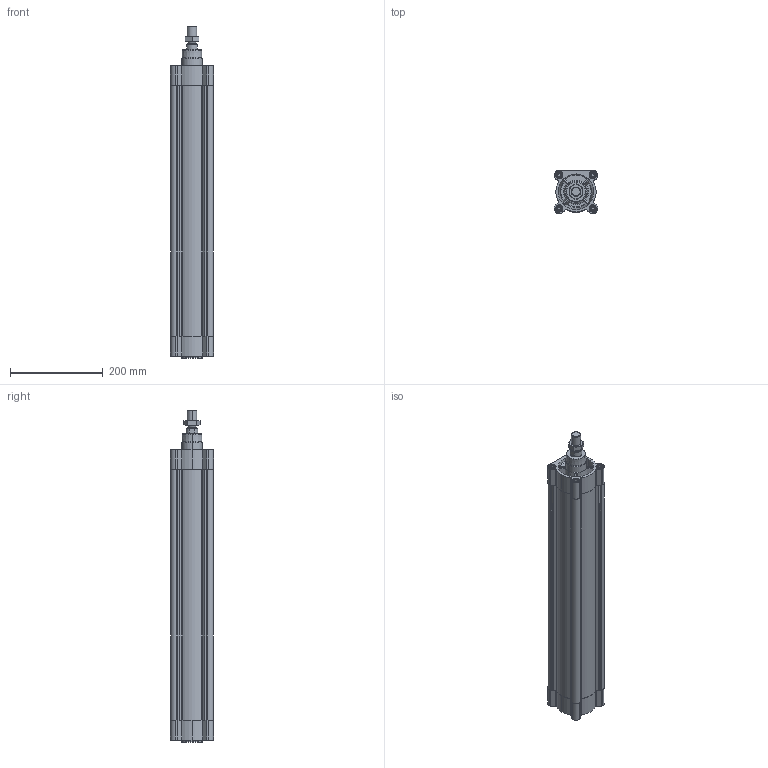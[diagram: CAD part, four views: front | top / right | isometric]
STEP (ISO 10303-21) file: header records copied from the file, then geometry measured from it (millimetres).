
FILE_DESCRIPTION (( 'STEP AP203' ), '1' );
FILE_NAME ('CPME80-500.STEP', '2024-03-14T12:18:24', ( '' ), ( '' ), 'SwSTEP 2.0', 'SolidWorks 2019', '' );
FILE_SCHEMA (( 'CONFIG_CONTROL_DESIGN' ));
Length unit declared in the file: millimetre
Products named in the file (1): CPME80-500
Bounding box: 93 x 93 x 717.6 mm (x, y, z)
Volume: 2280561.6 mm3; surface area: 551640.2 mm2
Topology: 3 solids, 3 shells, 533 faces, 1359 edges, 870 vertices
Faces by surface type: plane 207, cylinder 200, cone 98, torus 28
Entity records: 18683 total; most frequent: CARTESIAN_POINT 5639, DIRECTION 2751, ORIENTED_EDGE 2718, EDGE_CURVE 1359, AXIS2_PLACEMENT_3D 1049, VERTEX_POINT 870, LINE 653, VECTOR 653
